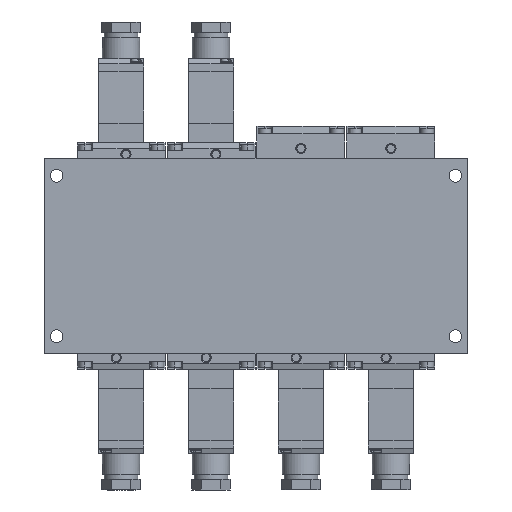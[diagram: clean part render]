
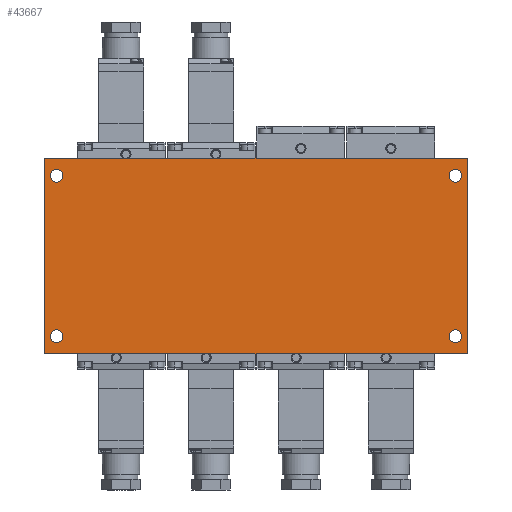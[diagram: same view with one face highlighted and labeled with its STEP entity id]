
A CAD part, front view. The second image highlights one B-rep face of the part: STEP entity #43667.
In plain terms, the highlighted planar face has unit normal (0, -1, 0).
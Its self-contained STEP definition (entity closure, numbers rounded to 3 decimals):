
#377 = CARTESIAN_POINT ( 'NONE',  ( 102., -60., 41. ) ) ;
#402 = DIRECTION ( 'NONE',  ( -1., 0., 0. ) ) ;
#446 = DIRECTION ( 'NONE',  ( 0., -1., 0. ) ) ;
#794 = VERTEX_POINT ( 'NONE', #21342 ) ;
#1088 = CARTESIAN_POINT ( 'NONE',  ( -108., -60., -50. ) ) ;
#1768 = ORIENTED_EDGE ( 'NONE', *, *, #7640, .T. ) ;
#2119 = VERTEX_POINT ( 'NONE', #3119 ) ;
#2840 = DIRECTION ( 'NONE',  ( -1., 0., 0. ) ) ;
#2914 = CIRCLE ( 'NONE', #19184, 3.25 ) ;
#3119 = CARTESIAN_POINT ( 'NONE',  ( -108., -60., 50. ) ) ;
#3159 = VECTOR ( 'NONE', #34922, 1000. ) ;
#3160 = CARTESIAN_POINT ( 'NONE',  ( -105.25, -60., 41. ) ) ;
#3245 = ORIENTED_EDGE ( 'NONE', *, *, #31779, .F. ) ;
#3320 = FACE_BOUND ( 'NONE', #19858, .T. ) ;
#3334 = VERTEX_POINT ( 'NONE', #7356 ) ;
#3411 = EDGE_CURVE ( 'NONE', #794, #9086, #31021, .T. ) ;
#3704 = DIRECTION ( 'NONE',  ( -1., 0., 0. ) ) ;
#3812 = FACE_OUTER_BOUND ( 'NONE', #24875, .T. ) ;
#4099 = VERTEX_POINT ( 'NONE', #41534 ) ;
#4193 = VERTEX_POINT ( 'NONE', #38938 ) ;
#5776 = EDGE_CURVE ( 'NONE', #9086, #794, #17800, .T. ) ;
#5844 = VECTOR ( 'NONE', #11933, 1000. ) ;
#6375 = CIRCLE ( 'NONE', #16339, 3.25 ) ;
#6983 = EDGE_CURVE ( 'NONE', #22916, #4099, #26914, .T. ) ;
#7356 = CARTESIAN_POINT ( 'NONE',  ( -105.25, -60., -41. ) ) ;
#7525 = DIRECTION ( 'NONE',  ( 0., -1., 0. ) ) ;
#7568 = DIRECTION ( 'NONE',  ( -1., 0., 0. ) ) ;
#7640 = EDGE_CURVE ( 'NONE', #38830, #41445, #25734, .T. ) ;
#9086 = VERTEX_POINT ( 'NONE', #43569 ) ;
#9140 = CARTESIAN_POINT ( 'NONE',  ( -98.75, -60., -41. ) ) ;
#9150 = AXIS2_PLACEMENT_3D ( 'NONE', #29346, #22356, #39592 ) ;
#10465 = AXIS2_PLACEMENT_3D ( 'NONE', #1088, #42712, #39093 ) ;
#11594 = VERTEX_POINT ( 'NONE', #9140 ) ;
#11933 = DIRECTION ( 'NONE',  ( 0., 0., 1. ) ) ;
#12122 = AXIS2_PLACEMENT_3D ( 'NONE', #32323, #22018, #39402 ) ;
#12724 = VECTOR ( 'NONE', #33108, 1000. ) ;
#14550 = CARTESIAN_POINT ( 'NONE',  ( 102., -60., -41. ) ) ;
#14563 = CARTESIAN_POINT ( 'NONE',  ( 108., -60., 0. ) ) ;
#14726 = FACE_BOUND ( 'NONE', #34946, .T. ) ;
#15086 = LINE ( 'NONE', #38679, #3159 ) ;
#16083 = AXIS2_PLACEMENT_3D ( 'NONE', #41169, #41024, #31202 ) ;
#16227 = AXIS2_PLACEMENT_3D ( 'NONE', #377, #21445, #35214 ) ;
#16339 = AXIS2_PLACEMENT_3D ( 'NONE', #31640, #7525, #402 ) ;
#17018 = ORIENTED_EDGE ( 'NONE', *, *, #5776, .F. ) ;
#17541 = CARTESIAN_POINT ( 'NONE',  ( 102., -60., -41. ) ) ;
#17800 = CIRCLE ( 'NONE', #38875, 3.25 ) ;
#18061 = ORIENTED_EDGE ( 'NONE', *, *, #27585, .F. ) ;
#18074 = VERTEX_POINT ( 'NONE', #37285 ) ;
#19009 = EDGE_LOOP ( 'NONE', ( #18061, #44897 ) ) ;
#19184 = AXIS2_PLACEMENT_3D ( 'NONE', #44033, #20115, #2840 ) ;
#19434 = VECTOR ( 'NONE', #35894, 1000. ) ;
#19766 = CARTESIAN_POINT ( 'NONE',  ( 98.75, -60., 41. ) ) ;
#19858 = EDGE_LOOP ( 'NONE', ( #24585, #17018 ) ) ;
#20040 = ORIENTED_EDGE ( 'NONE', *, *, #20471, .F. ) ;
#20115 = DIRECTION ( 'NONE',  ( 0., -1., 0. ) ) ;
#20162 = ORIENTED_EDGE ( 'NONE', *, *, #23785, .F. ) ;
#20382 = EDGE_CURVE ( 'NONE', #41445, #4193, #36202, .T. ) ;
#20471 = EDGE_CURVE ( 'NONE', #38830, #2119, #38917, .T. ) ;
#20928 = EDGE_CURVE ( 'NONE', #11594, #3334, #6375, .T. ) ;
#21335 = ORIENTED_EDGE ( 'NONE', *, *, #35706, .F. ) ;
#21342 = CARTESIAN_POINT ( 'NONE',  ( 98.75, -60., -41. ) ) ;
#21445 = DIRECTION ( 'NONE',  ( 0., -1., 0. ) ) ;
#21538 = CIRCLE ( 'NONE', #9150, 3.25 ) ;
#21852 = PLANE ( 'NONE',  #10465 ) ;
#22018 = DIRECTION ( 'NONE',  ( 0., -1., 0. ) ) ;
#22356 = DIRECTION ( 'NONE',  ( 0., -1., 0. ) ) ;
#22412 = VERTEX_POINT ( 'NONE', #19766 ) ;
#22788 = CARTESIAN_POINT ( 'NONE',  ( 108., -60., -50. ) ) ;
#22916 = VERTEX_POINT ( 'NONE', #3160 ) ;
#23785 = EDGE_CURVE ( 'NONE', #2119, #4193, #15086, .T. ) ;
#24131 = CARTESIAN_POINT ( 'NONE',  ( -108., -60., -50. ) ) ;
#24512 = DIRECTION ( 'NONE',  ( 0., -1., 0. ) ) ;
#24585 = ORIENTED_EDGE ( 'NONE', *, *, #3411, .F. ) ;
#24875 = EDGE_LOOP ( 'NONE', ( #39959, #20162, #20040, #1768 ) ) ;
#25734 = LINE ( 'NONE', #29350, #12724 ) ;
#26914 = CIRCLE ( 'NONE', #12122, 3.25 ) ;
#27585 = EDGE_CURVE ( 'NONE', #3334, #11594, #2914, .T. ) ;
#27753 = FACE_BOUND ( 'NONE', #19009, .T. ) ;
#29346 = CARTESIAN_POINT ( 'NONE',  ( 102., -60., 41. ) ) ;
#29350 = CARTESIAN_POINT ( 'NONE',  ( 0., -60., -50. ) ) ;
#30594 = ORIENTED_EDGE ( 'NONE', *, *, #6983, .F. ) ;
#31021 = CIRCLE ( 'NONE', #41397, 3.25 ) ;
#31202 = DIRECTION ( 'NONE',  ( -1., 0., 0. ) ) ;
#31640 = CARTESIAN_POINT ( 'NONE',  ( -102., -60., -41. ) ) ;
#31779 = EDGE_CURVE ( 'NONE', #4099, #22916, #35345, .T. ) ;
#32276 = CARTESIAN_POINT ( 'NONE',  ( -108., -60., 0. ) ) ;
#32323 = CARTESIAN_POINT ( 'NONE',  ( -102., -60., 41. ) ) ;
#33108 = DIRECTION ( 'NONE',  ( 1., 0., 0. ) ) ;
#34225 = FACE_BOUND ( 'NONE', #42724, .T. ) ;
#34922 = DIRECTION ( 'NONE',  ( 1., 0., 0. ) ) ;
#34946 = EDGE_LOOP ( 'NONE', ( #21335, #43172 ) ) ;
#35214 = DIRECTION ( 'NONE',  ( -1., 0., 0. ) ) ;
#35345 = CIRCLE ( 'NONE', #16083, 3.25 ) ;
#35706 = EDGE_CURVE ( 'NONE', #22412, #18074, #21538, .T. ) ;
#35894 = DIRECTION ( 'NONE',  ( 0., 0., 1. ) ) ;
#36202 = LINE ( 'NONE', #14563, #19434 ) ;
#37285 = CARTESIAN_POINT ( 'NONE',  ( 105.25, -60., 41. ) ) ;
#38679 = CARTESIAN_POINT ( 'NONE',  ( 0., -60., 50. ) ) ;
#38830 = VERTEX_POINT ( 'NONE', #24131 ) ;
#38875 = AXIS2_PLACEMENT_3D ( 'NONE', #14550, #446, #7568 ) ;
#38917 = LINE ( 'NONE', #32276, #5844 ) ;
#38938 = CARTESIAN_POINT ( 'NONE',  ( 108., -60., 50. ) ) ;
#39093 = DIRECTION ( 'NONE',  ( 0., 0., 1. ) ) ;
#39402 = DIRECTION ( 'NONE',  ( -1., 0., 0. ) ) ;
#39592 = DIRECTION ( 'NONE',  ( -1., 0., 0. ) ) ;
#39959 = ORIENTED_EDGE ( 'NONE', *, *, #20382, .T. ) ;
#41024 = DIRECTION ( 'NONE',  ( 0., -1., 0. ) ) ;
#41169 = CARTESIAN_POINT ( 'NONE',  ( -102., -60., 41. ) ) ;
#41259 = EDGE_CURVE ( 'NONE', #18074, #22412, #43613, .T. ) ;
#41397 = AXIS2_PLACEMENT_3D ( 'NONE', #17541, #24512, #3704 ) ;
#41445 = VERTEX_POINT ( 'NONE', #22788 ) ;
#41534 = CARTESIAN_POINT ( 'NONE',  ( -98.75, -60., 41. ) ) ;
#42712 = DIRECTION ( 'NONE',  ( 0., 1., 0. ) ) ;
#42724 = EDGE_LOOP ( 'NONE', ( #30594, #3245 ) ) ;
#43172 = ORIENTED_EDGE ( 'NONE', *, *, #41259, .F. ) ;
#43569 = CARTESIAN_POINT ( 'NONE',  ( 105.25, -60., -41. ) ) ;
#43613 = CIRCLE ( 'NONE', #16227, 3.25 ) ;
#43667 = ADVANCED_FACE ( 'NONE', ( #14726, #27753, #34225, #3320, #3812 ), #21852, .F. ) ;
#44033 = CARTESIAN_POINT ( 'NONE',  ( -102., -60., -41. ) ) ;
#44897 = ORIENTED_EDGE ( 'NONE', *, *, #20928, .F. ) ;
